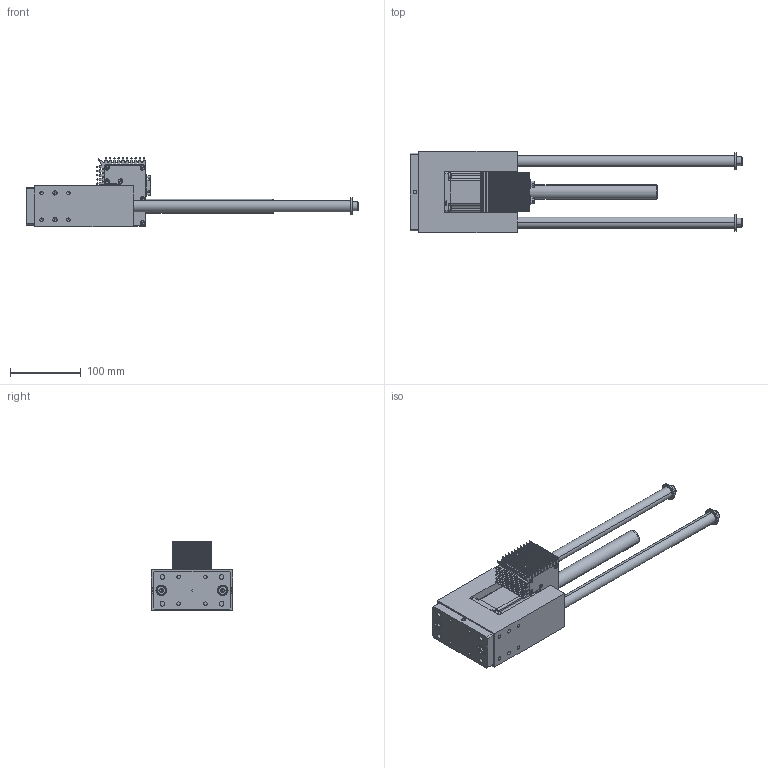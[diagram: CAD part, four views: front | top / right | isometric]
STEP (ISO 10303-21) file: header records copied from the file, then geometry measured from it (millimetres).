
FILE_DESCRIPTION (( 'STEP AP214' ), '1' );
FILE_NAME ('FE23_0004_V00_HUB-300.stp', '2022-03-11T10:46:57', ( '' ), ( '' ), 'SwSTEP 2.0', 'SolidWorks 2020', '' );
FILE_SCHEMA (( 'AUTOMOTIVE_DESIGN' ));
Length unit declared in the file: millimetre
Products named in the file (22): socket head cap screw_din_DIN 912 M8 x 16 --- 16N; spring pin slotted_hd_din_DIN EN 28752 - 2.5 x 16 - St; FE00_0001_V00; WISKA_EVSG_12_7035_10060624; FE00_0004_V00; FE23_0004_V00_HUB-300; socket set screw cone point_din_DIN 914 - M6 x 12-N; socket set screw cone point_din_DIN 914 - M4 x 5-N; socket thin pilot cap screw_din_DIN 6912 - M8 x 20 --- 13N; FE00_0002_V00_HUB-300; Kollmorgen_NEMA23_CTP22NSF3INSS02_mit Gewinde; FE00_0008_V00_L-180; C300_axial_SubD_Ohne Verschlusskappe; FE00_0006_V00; plain washer large_din_Washer DIN 9021 - 8.4; FE00_0005_V00; socket head cap screw_din_DIN 912 M4 x 16 --- 16N; INA-FAG_KH16-PP; INA_Axial-Rillenkugellager-51104_31_104; FE00_0003_V00_HUB-300; parallel pin hardened_din_DIN EN 28734 - 3 x 12 - A - St; FE23_0001_V00_HUB-300
Assembly tree (35 placements, depth 3):
  FE23_0004_V00_HUB-300
    FE23_0001_V00_HUB-300
      FE00_0002_V00_HUB-300
      FE00_0003_V00_HUB-300  x2
      FE00_0001_V00
      FE00_0004_V00
      FE00_0005_V00
      FE00_0006_V00
      INA-FAG_KH16-PP  x4
      socket thin pilot cap screw_din_DIN 6912 - M8 x 20 --- 13N  x2
      INA_Axial-Rillenkugellager-51104_31_104  x2
      parallel pin hardened_din_DIN EN 28734 - 3 x 12 - A - St  x3
      socket set screw cone point_din_DIN 914 - M4 x 5-N
      spring pin slotted_hd_din_DIN EN 28752 - 2.5 x 16 - St
      socket set screw cone point_din_DIN 914 - M6 x 12-N  x2
      plain washer large_din_Washer DIN 9021 - 8.4  x2
      socket head cap screw_din_DIN 912 M8 x 16 --- 16N  x2
    Kollmorgen_NEMA23_CTP22NSF3INSS02_mit Gewinde
    C300_axial_SubD_Ohne Verschlusskappe
    FE00_0008_V00_L-180
    WISKA_EVSG_12_7035_10060624
    socket head cap screw_din_DIN 912 M4 x 16 --- 16N  x4
Bounding box: 470 x 115 x 98.5 mm (x, y, z)
Volume: 1284622 mm3; surface area: 343217.1 mm2
Topology: 65 solids, 66 shells, 2509 faces, 6159 edges, 3721 vertices
Faces by surface type: plane 1072, cylinder 742, cone 363, bspline 188, torus 144
Entity records: 81213 total; most frequent: CARTESIAN_POINT 17632, DIRECTION 10271, ORIENTED_EDGE 9740, EDGE_CURVE 4870, AXIS2_PLACEMENT_3D 3769, VERTEX_POINT 3078, LINE 2733, VECTOR 2733
